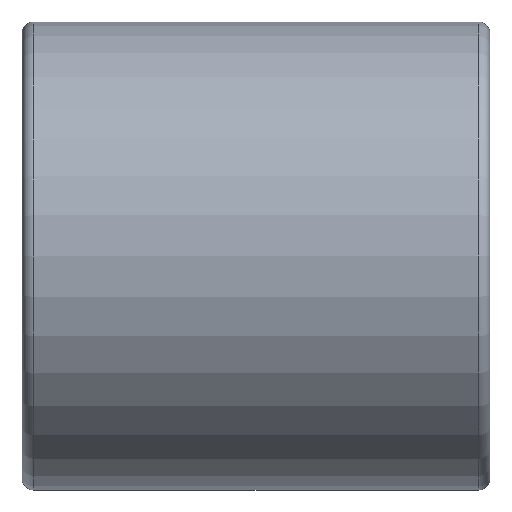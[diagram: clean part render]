
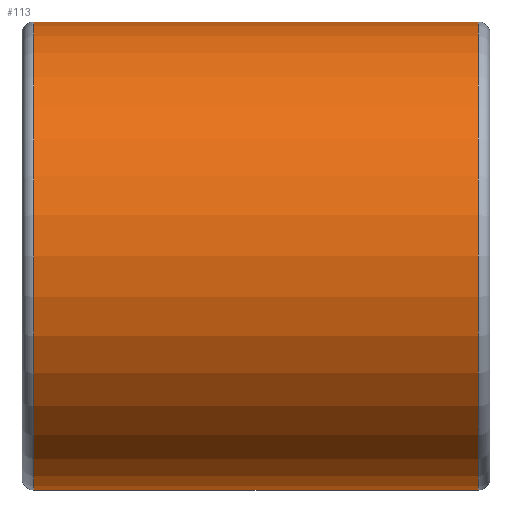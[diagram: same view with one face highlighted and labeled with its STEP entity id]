
A CAD part, left-side view. The second image highlights one B-rep face of the part: STEP entity #113.
In plain terms, the highlighted cylindrical face has radius 2 mm (diameter 4 mm), a partial arc.
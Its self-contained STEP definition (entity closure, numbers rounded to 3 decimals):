
#13 = EDGE_LOOP ( 'NONE', ( #180, #43, #269, #34 ) ) ;
#20 = CIRCLE ( 'NONE', #202, 2. ) ;
#34 = ORIENTED_EDGE ( 'NONE', *, *, #111, .T. ) ;
#38 = DIRECTION ( 'NONE',  ( 0., 0., 1. ) ) ;
#39 = CARTESIAN_POINT ( 'NONE',  ( 0., 4., -2. ) ) ;
#43 = ORIENTED_EDGE ( 'NONE', *, *, #162, .T. ) ;
#54 = CARTESIAN_POINT ( 'NONE',  ( 0., 4., 0. ) ) ;
#72 = VERTEX_POINT ( 'NONE', #94 ) ;
#78 = AXIS2_PLACEMENT_3D ( 'NONE', #54, #142, #124 ) ;
#79 = FACE_OUTER_BOUND ( 'NONE', #13, .T. ) ;
#82 = CARTESIAN_POINT ( 'NONE',  ( 0., 0.1, 0. ) ) ;
#84 = EDGE_CURVE ( 'NONE', #72, #157, #177, .T. ) ;
#89 = CIRCLE ( 'NONE', #176, 2. ) ;
#94 = CARTESIAN_POINT ( 'NONE',  ( 0., 3.9, 2. ) ) ;
#111 = EDGE_CURVE ( 'NONE', #243, #157, #20, .T. ) ;
#113 = ADVANCED_FACE ( 'NONE', ( #79 ), #188, .T. ) ;
#117 = DIRECTION ( 'NONE',  ( 0., -1., 0. ) ) ;
#122 = DIRECTION ( 'NONE',  ( 0., 0., 1. ) ) ;
#124 = DIRECTION ( 'NONE',  ( 0., 0., -1. ) ) ;
#142 = DIRECTION ( 'NONE',  ( 0., -1., 0. ) ) ;
#146 = LINE ( 'NONE', #39, #252 ) ;
#148 = CARTESIAN_POINT ( 'NONE',  ( 0., 3.9, 0. ) ) ;
#156 = CARTESIAN_POINT ( 'NONE',  ( 0., 4., 2. ) ) ;
#157 = VERTEX_POINT ( 'NONE', #277 ) ;
#162 = EDGE_CURVE ( 'NONE', #72, #204, #89, .T. ) ;
#169 = CARTESIAN_POINT ( 'NONE',  ( 0., 3.9, -2. ) ) ;
#176 = AXIS2_PLACEMENT_3D ( 'NONE', #148, #233, #122 ) ;
#177 = LINE ( 'NONE', #156, #187 ) ;
#180 = ORIENTED_EDGE ( 'NONE', *, *, #84, .F. ) ;
#187 = VECTOR ( 'NONE', #117, 1000. ) ;
#188 = CYLINDRICAL_SURFACE ( 'NONE', #78, 2. ) ;
#202 = AXIS2_PLACEMENT_3D ( 'NONE', #82, #254, #38 ) ;
#204 = VERTEX_POINT ( 'NONE', #169 ) ;
#233 = DIRECTION ( 'NONE',  ( 0., -1., 0. ) ) ;
#243 = VERTEX_POINT ( 'NONE', #253 ) ;
#252 = VECTOR ( 'NONE', #265, 1000. ) ;
#253 = CARTESIAN_POINT ( 'NONE',  ( 0., 0.1, -2. ) ) ;
#254 = DIRECTION ( 'NONE',  ( 0., 1., 0. ) ) ;
#255 = EDGE_CURVE ( 'NONE', #204, #243, #146, .T. ) ;
#265 = DIRECTION ( 'NONE',  ( 0., -1., 0. ) ) ;
#269 = ORIENTED_EDGE ( 'NONE', *, *, #255, .T. ) ;
#277 = CARTESIAN_POINT ( 'NONE',  ( 0., 0.1, 2. ) ) ;
